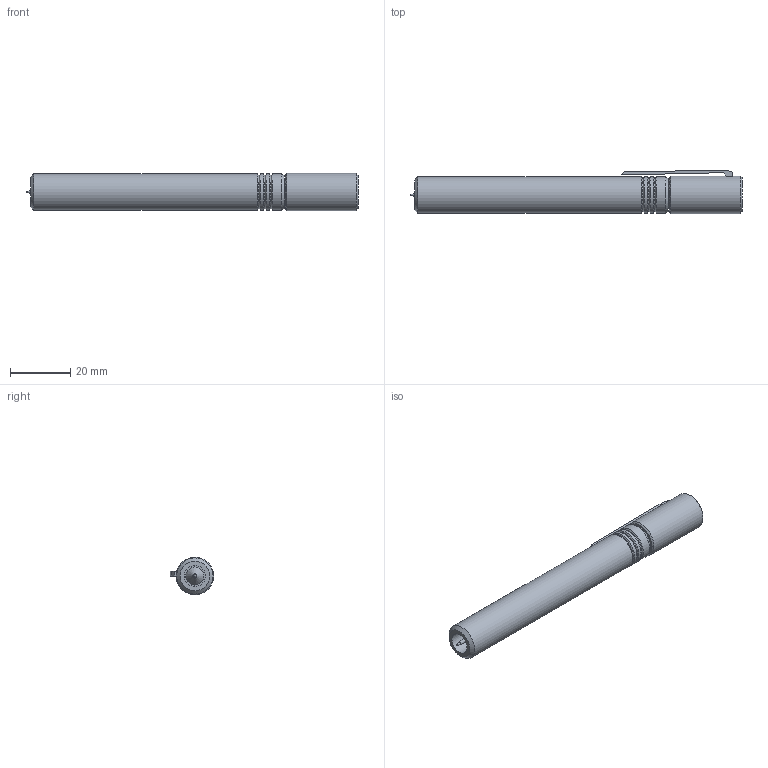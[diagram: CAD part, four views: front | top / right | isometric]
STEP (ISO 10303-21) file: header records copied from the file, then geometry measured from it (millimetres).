
FILE_DESCRIPTION(('Open CASCADE Model'),'2;1');
FILE_NAME('Open CASCADE Shape Model','2026-11-25T12:49:22',('Author'),( 'Open CASCADE'),'Open CASCADE STEP processor 8.0','Open CASCADE 8.0' ,'Unknown');
FILE_SCHEMA(('AP242_MANAGED_MODEL_BASED_3D_ENGINEERING_MIM_LF {1 0 10303 442 1 1 4 }' ));
Length unit declared in the file: millimetre
Products named in the file (4): Barrel; Threaded cap; Refill; Pocket clip
Bounding box: 109.88 x 14.3 x 12.4 mm (x, y, z)
Volume: 10088.3 mm3; surface area: 9567.5 mm2
Topology: 4 solids, 4 shells, 72 faces, 167 edges, 105 vertices
Faces by surface type: cylinder 34, plane 18, cone 14, bspline 6
Full cylindrical faces by diameter (mm): 6 x1, 7 x1, 9.088 x10, 9.7 x9, 10 x1, 11.2 x3, 12 x4, 12.4 x1
Entity records: 14818 total; most frequent: CARTESIAN_POINT 11641, DIRECTION 483, ORIENTED_EDGE 332, PCURVE 332, DEFINITIONAL_REPRESENTATION 332, LINE 271, VECTOR 271, B_SPLINE_CURVE_WITH_KNOTS 181
